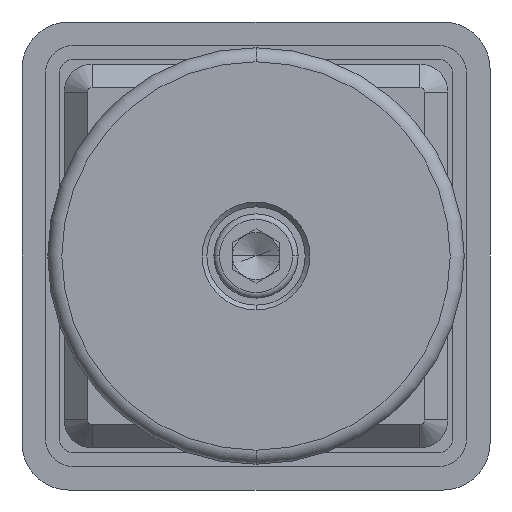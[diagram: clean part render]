
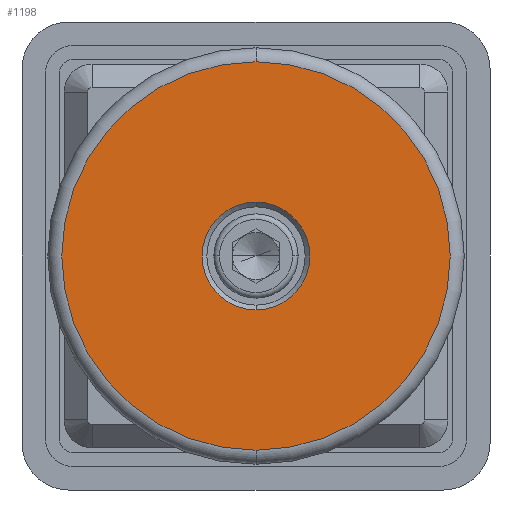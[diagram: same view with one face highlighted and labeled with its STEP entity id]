
A CAD part, front view. The second image highlights one B-rep face of the part: STEP entity #1198.
In plain terms, the highlighted planar face has unit normal (0, -1, 0).
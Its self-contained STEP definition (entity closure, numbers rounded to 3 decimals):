
#612 = CIRCLE ( 'NONE', #4011, 11.5 ) ;
#782 = DIRECTION ( 'NONE',  ( 0., 1., 0. ) ) ;
#977 = CARTESIAN_POINT ( 'NONE',  ( 0., -27.2, 11.5 ) ) ;
#1198 = ADVANCED_FACE ( 'NONE', ( #2727, #5334 ), #4796, .T. ) ;
#1207 = CARTESIAN_POINT ( 'NONE',  ( 0., -27.2, 41.5 ) ) ;
#1262 = ORIENTED_EDGE ( 'NONE', *, *, #5668, .T. ) ;
#1465 = EDGE_CURVE ( 'NONE', #1479, #4046, #612, .T. ) ;
#1479 = VERTEX_POINT ( 'NONE', #3024 ) ;
#1669 = DIRECTION ( 'NONE',  ( 0., 0., -1. ) ) ;
#1768 = CARTESIAN_POINT ( 'NONE',  ( 0., -27.2, 0. ) ) ;
#2243 = CIRCLE ( 'NONE', #2665, 41.5 ) ;
#2262 = DIRECTION ( 'NONE',  ( 0., -1., 0. ) ) ;
#2660 = AXIS2_PLACEMENT_3D ( 'NONE', #1768, #5397, #5872 ) ;
#2665 = AXIS2_PLACEMENT_3D ( 'NONE', #4867, #3887, #5838 ) ;
#2727 = FACE_BOUND ( 'NONE', #4008, .T. ) ;
#2765 = ORIENTED_EDGE ( 'NONE', *, *, #6028, .T. ) ;
#2834 = DIRECTION ( 'NONE',  ( 0., 0., -1. ) ) ;
#2844 = CARTESIAN_POINT ( 'NONE',  ( 0., -27.2, 0. ) ) ;
#3020 = VERTEX_POINT ( 'NONE', #3521 ) ;
#3024 = CARTESIAN_POINT ( 'NONE',  ( 0., -27.2, -11.5 ) ) ;
#3166 = CARTESIAN_POINT ( 'NONE',  ( 44.5, -27.2, 0. ) ) ;
#3198 = CIRCLE ( 'NONE', #3398, 11.5 ) ;
#3398 = AXIS2_PLACEMENT_3D ( 'NONE', #2844, #782, #5905 ) ;
#3521 = CARTESIAN_POINT ( 'NONE',  ( 0., -27.2, -41.5 ) ) ;
#3790 = AXIS2_PLACEMENT_3D ( 'NONE', #3166, #2262, #1669 ) ;
#3887 = DIRECTION ( 'NONE',  ( 0., -1., 0. ) ) ;
#4008 = EDGE_LOOP ( 'NONE', ( #5105, #1262 ) ) ;
#4011 = AXIS2_PLACEMENT_3D ( 'NONE', #5364, #5429, #2834 ) ;
#4046 = VERTEX_POINT ( 'NONE', #977 ) ;
#4796 = PLANE ( 'NONE',  #3790 ) ;
#4867 = CARTESIAN_POINT ( 'NONE',  ( 0., -27.2, 0. ) ) ;
#5105 = ORIENTED_EDGE ( 'NONE', *, *, #1465, .T. ) ;
#5334 = FACE_OUTER_BOUND ( 'NONE', #6465, .T. ) ;
#5364 = CARTESIAN_POINT ( 'NONE',  ( 0., -27.2, 0. ) ) ;
#5397 = DIRECTION ( 'NONE',  ( 0., -1., 0. ) ) ;
#5429 = DIRECTION ( 'NONE',  ( 0., 1., 0. ) ) ;
#5505 = VERTEX_POINT ( 'NONE', #1207 ) ;
#5540 = CIRCLE ( 'NONE', #2660, 41.5 ) ;
#5668 = EDGE_CURVE ( 'NONE', #4046, #1479, #3198, .T. ) ;
#5838 = DIRECTION ( 'NONE',  ( 0., 0., -1. ) ) ;
#5872 = DIRECTION ( 'NONE',  ( 0., 0., -1. ) ) ;
#5905 = DIRECTION ( 'NONE',  ( 0., 0., -1. ) ) ;
#6028 = EDGE_CURVE ( 'NONE', #3020, #5505, #5540, .T. ) ;
#6109 = EDGE_CURVE ( 'NONE', #5505, #3020, #2243, .T. ) ;
#6171 = ORIENTED_EDGE ( 'NONE', *, *, #6109, .T. ) ;
#6465 = EDGE_LOOP ( 'NONE', ( #2765, #6171 ) ) ;
